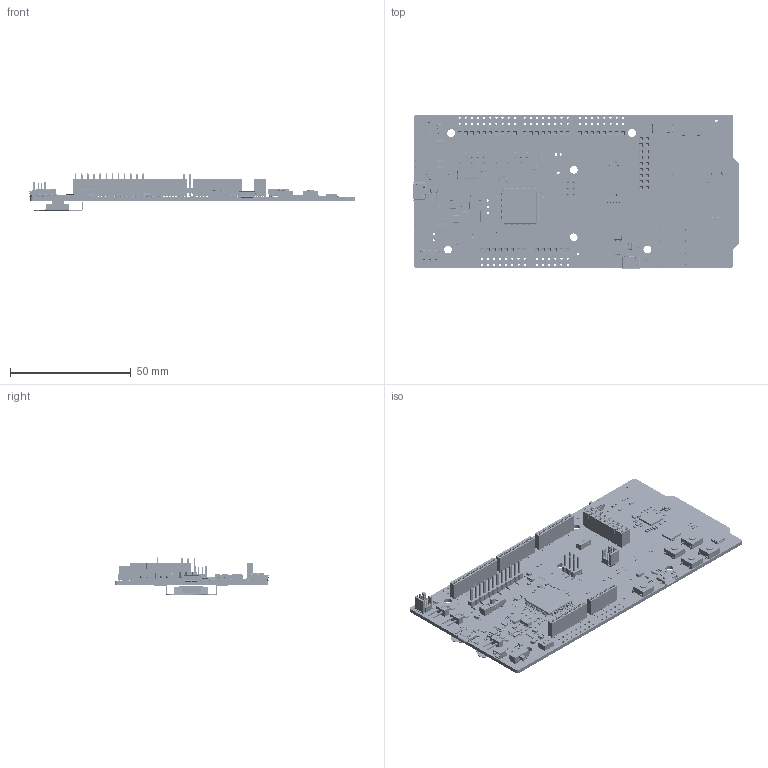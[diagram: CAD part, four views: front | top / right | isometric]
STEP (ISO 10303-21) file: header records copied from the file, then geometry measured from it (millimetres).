
FILE_DESCRIPTION(/* description */ ('Alibre Inc.'),/* implementation_level */ '2;1');
FILE_NAME(/* name */ 'export0',/* time_stamp */ '2018-03-23T23:10:36+00:00',/* author */ (''),/* organization */ (''),/* preprocessor_version */ 'ST-DEVELOPER v14',/* originating_system */ 'Alibre',/* authorisation */ '');
FILE_SCHEMA (('AUTOMOTIVE_DESIGN'));
Length unit declared in the file: millimetre
Bounding box: 135.28 x 64.07 x 15.38 mm (x, y, z)
Volume: 17916.4 mm3; surface area: 29963.4 mm2
Topology: 613 solids, 617 shells, 21001 faces, 53076 edges, 32943 vertices
Faces by surface type: plane 13482, cylinder 4038, bspline 3048, sphere 409, torus 18, cone 6
Full cylindrical faces by diameter (mm): 0.231 x1, 0.25 x184, 0.562 x1, 0.6 x2, 0.762 x1, 0.8 x3, 0.887 x1, 0.9 x85, 0.991 x3, 1 x5, 1.78 x3, 1.8 x1, 2 x1, 2.05 x1, 2.1 x2, 3.2 x6
Entity records: 253007 total; most frequent: CARTESIAN_POINT 54665, ORIENTED_EDGE 39912, DIRECTION 34352, EDGE_CURVE 19958, VECTOR 16331, LINE 16331, VERTEX_POINT 12676, AXIS2_PLACEMENT_3D 11845
